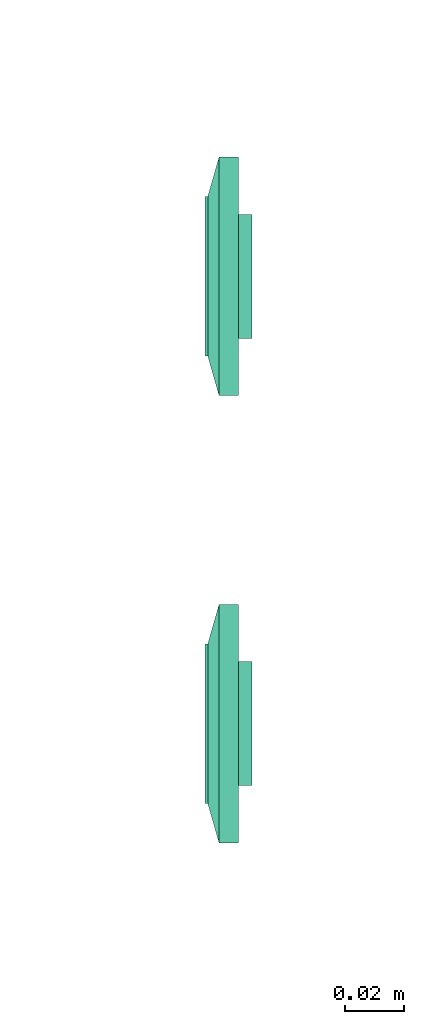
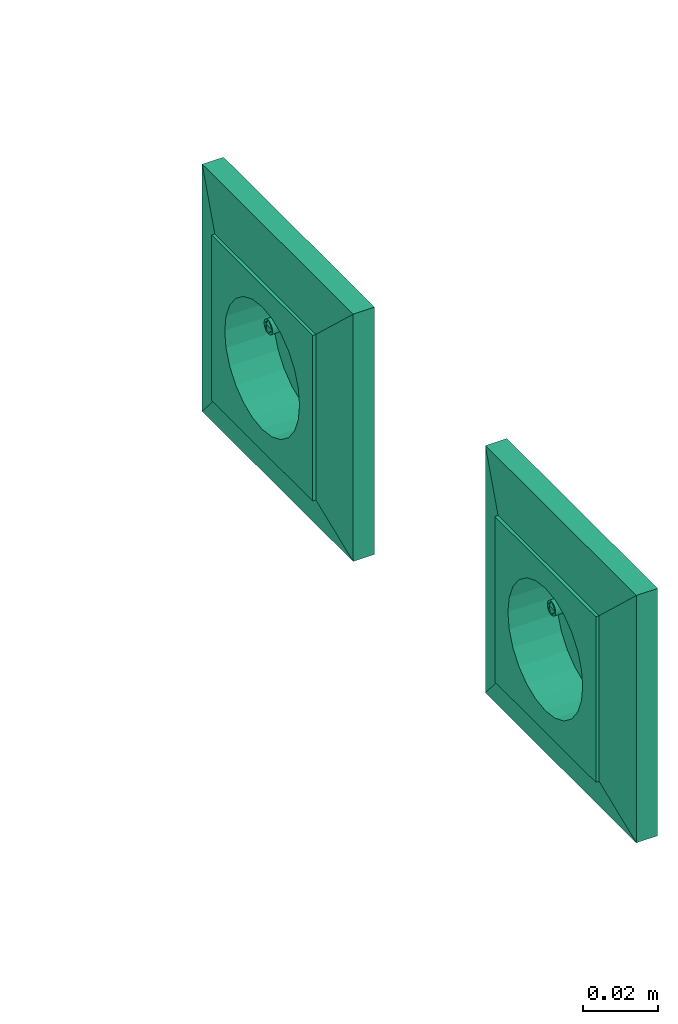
# One storey, part 95 of 146: 2 flow terminals.
"""IFC2X3 building model written with IfcOpenShell, lengths in metres."""

from ifc_helpers import new_model, entity, si_unit, converted_unit, derived_unit, direction, frame, origin, place, context, subcontext, project, spatial, face_set, surface_model, source, transform, mapped, type_object, type_shapes, element, save


model = new_model("IFC2X3")

# Units and contexts
model_context = context("Model", 3, precision=1e-05, world=origin(), true_north=direction((6.12303176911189e-17, 1.0)))
body_context = subcontext(model_context, "Body", "Model", "MODEL_VIEW")
ifc_project = project(units=[si_unit("LENGTHUNIT", "METRE"), si_unit("AREAUNIT", "SQUARE_METRE"), si_unit("VOLUMEUNIT", "CUBIC_METRE"), converted_unit("PLANEANGLEUNIT", "DEGREE", entity("IfcRatioMeasure", 0.0174532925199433), si_unit("PLANEANGLEUNIT", "RADIAN"), dimensions=[0, 0, 0, 0, 0, 0, 0]), si_unit("MASSUNIT", "GRAM", prefix="KILO"), derived_unit("MASSDENSITYUNIT", [(si_unit("MASSUNIT", "GRAM", prefix="KILO"), 1), (si_unit("LENGTHUNIT", "METRE"), -3)]), si_unit("TIMEUNIT", "SECOND"), si_unit("FREQUENCYUNIT", "HERTZ"), si_unit("THERMODYNAMICTEMPERATUREUNIT", "DEGREE_CELSIUS"), derived_unit("THERMALTRANSMITTANCEUNIT", [(si_unit("MASSUNIT", "GRAM", prefix="KILO"), 1), (si_unit("THERMODYNAMICTEMPERATUREUNIT", "KELVIN"), -1), (si_unit("TIMEUNIT", "SECOND"), -3)]), derived_unit("VOLUMETRICFLOWRATEUNIT", [(si_unit("LENGTHUNIT", "METRE"), 3), (si_unit("TIMEUNIT", "SECOND"), -1)]), si_unit("ELECTRICCURRENTUNIT", "AMPERE"), si_unit("ELECTRICVOLTAGEUNIT", "VOLT"), si_unit("POWERUNIT", "WATT"), si_unit("FORCEUNIT", "NEWTON"), si_unit("ILLUMINANCEUNIT", "LUX"), si_unit("LUMINOUSFLUXUNIT", "LUMEN"), si_unit("LUMINOUSINTENSITYUNIT", "CANDELA"), derived_unit("USERDEFINED", [(si_unit("MASSUNIT", "GRAM", prefix="KILO"), -1), (si_unit("LENGTHUNIT", "METRE"), -2), (si_unit("TIMEUNIT", "SECOND"), 3), (si_unit("LUMINOUSFLUXUNIT", "LUMEN"), 1)]), derived_unit("LINEARVELOCITYUNIT", [(si_unit("LENGTHUNIT", "METRE"), 1), (si_unit("TIMEUNIT", "SECOND"), -1)]), si_unit("PRESSUREUNIT", "PASCAL"), derived_unit("USERDEFINED", [(si_unit("LENGTHUNIT", "METRE"), -2), (si_unit("MASSUNIT", "GRAM", prefix="KILO"), 1), (si_unit("TIMEUNIT", "SECOND"), -2)])], contexts=[model_context])

# Site, building, storey
site_placement = place(None, origin())
site = spatial("IfcSite", under=ifc_project, at=site_placement, Name="Default", CompositionType="ELEMENT")
building_placement = place(site_placement, origin())
building = spatial("IfcBuilding", under=site, at=building_placement, CompositionType="ELEMENT")
storey_placement = place(building_placement, origin())
storey = spatial("IfcBuildingStorey", under=building, at=storey_placement, Name="S01", CompositionType="ELEMENT", Elevation=0.0)

# Flow terminals
light_fixture_type = type_object("IfcLightFixtureType", Name="IP20 ONDULEE", PredefinedType="NOTDEFINED")
shared_shape = source(origin(), body_context, "Body", "SurfaceModel", [
    surface_model("IfcFaceBasedSurfaceModel", [(-0.00225000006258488, 0.0127499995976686, 0.00949633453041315), (0.0, 0.0104999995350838, 0.00949633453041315), (0.0, 0.0115376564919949, 0.0101656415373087), (0.0, 0.0139623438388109, 0.0101656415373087), (0.0, 0.0144589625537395, 0.00984531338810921), (0.0, 0.0121178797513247, 0.0102778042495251), (0.0, 0.0133821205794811, 0.0102778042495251), (0.0, 0.0127499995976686, 0.010399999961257), (0.0, 0.0149999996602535, 0.00949633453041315), (0.00225000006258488, 0.0127499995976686, 0.00949633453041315), (0.0, 0.0110410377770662, 0.00984531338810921), (0.0, 0.0127499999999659, 0.00949633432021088), (0.00225000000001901, 0.0127499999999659, 0.00949633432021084), (0.00217333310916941, 0.0121676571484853, 0.00949633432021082), (0.00194855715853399, 0.0116249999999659, 0.00949633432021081), (0.00159099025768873, 0.0111590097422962, 0.00949633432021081), (0.001125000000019, 0.010801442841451, 0.00949633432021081), (0.00058234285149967, 0.0105766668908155, 0.00949633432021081), (0.0, 0.0104999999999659, 0.00949633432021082), (-0.000582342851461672, 0.0105766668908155, 0.00949633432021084), (-0.001124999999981, 0.010801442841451, 0.00949633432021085), (-0.00159099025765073, 0.0111590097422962, 0.00949633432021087), (-0.00194855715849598, 0.011624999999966, 0.00949633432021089), (-0.0021733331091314, 0.0121676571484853, 0.00949633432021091), (-0.00224999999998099, 0.012749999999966, 0.00949633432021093), (-0.00217333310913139, 0.0133323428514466, 0.00949633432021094), (-0.00194855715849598, 0.013874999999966, 0.00949633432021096), (-0.00159099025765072, 0.0143409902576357, 0.00949633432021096), (-0.00112499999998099, 0.0146985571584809, 0.00949633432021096), (-0.00058234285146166, 0.0149233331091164, 0.00949633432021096), (0.0, 0.0149999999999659, 0.00949633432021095), (0.000582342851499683, 0.0149233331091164, 0.00949633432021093), (0.00112500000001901, 0.0146985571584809, 0.00949633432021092), (0.00159099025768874, 0.0143409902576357, 0.00949633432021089), (0.001948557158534, 0.0138749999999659, 0.00949633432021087), (0.00217333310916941, 0.0133323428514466, 0.00949633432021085), (0.00225000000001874, 0.0127499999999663, -0.00360000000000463), (0.00217333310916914, 0.0121676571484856, -0.00360000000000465), (0.00194855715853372, 0.0116249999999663, -0.00360000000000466), (0.00159099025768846, 0.0111590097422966, -0.00360000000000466), (0.00112500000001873, 0.0108014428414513, -0.00360000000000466), (0.000582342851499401, 0.0105766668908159, -0.00360000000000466), (0.0, 0.0104999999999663, -0.00360000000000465), (-0.000582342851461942, 0.0105766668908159, -0.00360000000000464), (-0.00112499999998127, 0.0108014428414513, -0.00360000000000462), (-0.001590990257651, 0.0111590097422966, -0.0036000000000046), (-0.00194855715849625, 0.0116249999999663, -0.00360000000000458), (-0.00217333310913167, 0.0121676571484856, -0.00360000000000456), (-0.00224999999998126, 0.0127499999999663, -0.00360000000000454), (-0.00217333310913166, 0.013332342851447, -0.00360000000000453), (-0.00194855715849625, 0.0138749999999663, -0.00360000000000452), (-0.00159099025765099, 0.014340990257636, -0.00360000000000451), (-0.00112499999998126, 0.0146985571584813, -0.00360000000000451), (-0.000582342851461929, 0.0149233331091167, -0.00360000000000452), (0.0, 0.0149999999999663, -0.00360000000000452), (0.000582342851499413, 0.0149233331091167, -0.00360000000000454), (0.00112500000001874, 0.0146985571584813, -0.00360000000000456), (0.00159099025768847, 0.014340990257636, -0.00360000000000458), (0.00194855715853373, 0.0138749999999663, -0.0036000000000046), (0.00217333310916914, 0.013332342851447, -0.00360000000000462), (0.0270000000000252, 0.026999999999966, 0.0113999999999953), (-0.0269999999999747, 0.026999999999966, 0.0113999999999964), (-0.0269999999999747, -0.0270000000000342, 0.0113999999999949), (0.0270000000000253, -0.0270000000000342, 0.0113999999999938), (-0.0199999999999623, 0.0, 0.0113999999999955), (-0.0193185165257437, -0.00517638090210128, 0.0113999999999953), (-0.0173205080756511, -0.0100000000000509, 0.0113999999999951), (-0.0141421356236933, -0.0141421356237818, 0.011399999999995), (-0.00999999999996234, -0.0173205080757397, 0.0113999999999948), (-0.00517638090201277, -0.0193185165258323, 0.0113999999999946), (0.0, -0.0200000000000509, 0.0113999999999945), (0.00517638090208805, -0.0193185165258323, 0.0113999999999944), (0.0100000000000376, -0.0173205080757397, 0.0113999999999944), (0.0141421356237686, -0.0141421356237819, 0.0113999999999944), (0.0173205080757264, -0.010000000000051, 0.0113999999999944), (0.0193185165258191, -0.00517638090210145, 0.0113999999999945), (0.0200000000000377, 0.0, 0.0113999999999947), (0.0193185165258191, 0.00517638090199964, 0.0113999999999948), (0.0173205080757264, 0.0099999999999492, 0.011399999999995), (0.0141421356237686, 0.0141421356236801, 0.0113999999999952), (0.0100000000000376, 0.0173205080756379, 0.0113999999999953), (0.00517638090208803, 0.0193185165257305, 0.0113999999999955), (0.0, 0.0199999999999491, 0.0113999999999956), (-0.00517638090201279, 0.0193185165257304, 0.0113999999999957), (-0.00999999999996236, 0.0173205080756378, 0.0113999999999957), (-0.0141421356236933, 0.01414213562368, 0.0113999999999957), (-0.0173205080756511, 0.00999999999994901, 0.0113999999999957), (-0.0193185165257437, 0.00517638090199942, 0.0113999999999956), (0.0270000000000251, 0.0269999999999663, 0.00199999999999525), (0.0270000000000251, -0.0270000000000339, 0.00199999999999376), (-0.0269999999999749, -0.0270000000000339, 0.00199999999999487), (-0.0269999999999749, 0.0269999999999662, 0.00199999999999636), (0.0210000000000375, 0.0, 0.00199999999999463), (0.0202844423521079, -0.00543519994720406, 0.00199999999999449), (0.0181865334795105, -0.0105000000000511, 0.0019999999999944), (0.0148492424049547, -0.0148492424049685, 0.00199999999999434), (0.0105000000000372, -0.0181865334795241, 0.00199999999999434), (0.0054351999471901, -0.0202844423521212, 0.00199999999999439), (0.0, -0.0210000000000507, 0.00199999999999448), (-0.00543519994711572, -0.020284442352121, 0.00199999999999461), (-0.0104999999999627, -0.0181865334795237, 0.00199999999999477), (-0.0148492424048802, -0.014849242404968, 0.00199999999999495), (-0.0181865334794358, -0.0105000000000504, 0.00199999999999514), (-0.020284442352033, -0.00543519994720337, 0.00199999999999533), (-0.0209999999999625, 0.0, 0.00199999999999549), (-0.0202844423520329, 0.0054351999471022, 0.00199999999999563), (-0.0181865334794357, 0.0104999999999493, 0.00199999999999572), (-0.01484924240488, 0.0148492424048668, 0.00199999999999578), (-0.0104999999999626, 0.0181865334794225, 0.00199999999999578), (-0.00543519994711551, 0.0202844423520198, 0.00199999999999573), (0.0, 0.0209999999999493, 0.00199999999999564), (0.00543519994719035, 0.0202844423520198, 0.00199999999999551), (0.0105000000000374, 0.0181865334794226, 0.00199999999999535), (0.0148492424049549, 0.0148492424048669, 0.00199999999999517), (0.0181865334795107, 0.0104999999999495, 0.00199999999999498), (0.0202844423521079, 0.00543519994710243, 0.00199999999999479), (0.0200000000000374, 0.0, -0.00360000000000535), (0.0193185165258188, -0.00517638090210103, -0.00360000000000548), (0.0173205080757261, -0.0100000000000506, -0.00360000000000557), (0.0141421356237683, -0.0141421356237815, -0.00360000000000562), (0.0100000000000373, -0.0173205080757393, -0.00360000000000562), (0.00517638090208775, -0.0193185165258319, -0.00360000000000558), (0.0, -0.0200000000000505, -0.00360000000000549), (-0.00517638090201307, -0.0193185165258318, -0.00360000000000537), (-0.00999999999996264, -0.0173205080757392, -0.00360000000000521), (-0.0141421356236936, -0.0141421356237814, -0.00360000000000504), (-0.0173205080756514, -0.0100000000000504, -0.00360000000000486), (-0.019318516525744, -0.00517638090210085, -0.00360000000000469), (-0.0199999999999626, 0.0, -0.00360000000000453), (-0.0193185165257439, 0.00517638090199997, -0.0036000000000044), (-0.0173205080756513, 0.00999999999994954, -0.00360000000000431), (-0.0141421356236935, 0.0141421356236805, -0.00360000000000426), (-0.00999999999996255, 0.0173205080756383, -0.00360000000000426), (-0.00517638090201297, 0.0193185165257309, -0.0036000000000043), (0.0, 0.0199999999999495, -0.00360000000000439), (0.00517638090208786, 0.0193185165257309, -0.00360000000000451), (0.0100000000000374, 0.0173205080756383, -0.00360000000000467), (0.0141421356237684, 0.0141421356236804, -0.00360000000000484), (0.0173205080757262, 0.0099999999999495, -0.00360000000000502), (0.0193185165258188, 0.00517638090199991, -0.00360000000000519), (-0.0123499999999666, 0.0, -0.00360000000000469), (-0.0122562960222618, -0.000711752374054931, -0.00360000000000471), (-0.0119815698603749, -0.00137500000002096, -0.00360000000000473), (-0.0115445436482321, -0.00194454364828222, -0.00360000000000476), (-0.0109749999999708, -0.00238156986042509, -0.00360000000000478), (-0.0103117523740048, -0.00265629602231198, -0.0036000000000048), (-0.00959999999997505, -0.00275000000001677, -0.00360000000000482), (-0.0088882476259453, -0.00265629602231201, -0.00360000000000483), (-0.00822499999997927, -0.00238156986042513, -0.00360000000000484), (-0.00765545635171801, -0.00194454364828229, -0.00360000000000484), (-0.00721843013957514, -0.00137500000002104, -0.00360000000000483), (-0.00694370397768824, -0.000711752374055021, -0.00360000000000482), (-0.00684999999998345, 0.0, -0.0036000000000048), (-0.00694370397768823, 0.000711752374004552, -0.00360000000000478), (-0.00721843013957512, 0.00137499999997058, -0.00360000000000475), (-0.00765545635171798, 0.00194454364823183, -0.00360000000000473), (-0.00822499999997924, 0.00238156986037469, -0.0036000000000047), (-0.00888824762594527, 0.00265629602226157, -0.00360000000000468), (-0.00959999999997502, 0.00274999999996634, -0.00360000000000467), (-0.0103117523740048, 0.00265629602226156, -0.00360000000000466), (-0.0109749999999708, 0.00238156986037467, -0.00360000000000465), (-0.011544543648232, 0.00194454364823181, -0.00360000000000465), (-0.0119815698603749, 0.00137499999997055, -0.00360000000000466), (-0.0122562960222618, 0.000711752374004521, -0.00360000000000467), (0.00685000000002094, 0.0, -0.00360000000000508), (0.0069437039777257, -0.00071175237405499, -0.0036000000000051), (0.00721843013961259, -0.00137500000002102, -0.00360000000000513), (0.00765545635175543, -0.00194454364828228, -0.00360000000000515), (0.00822500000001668, -0.00238156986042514, -0.00360000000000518), (0.00888824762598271, -0.00265629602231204, -0.0036000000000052), (0.00960000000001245, -0.00275000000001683, -0.00360000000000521), (0.0103117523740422, -0.00265629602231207, -0.00360000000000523), (0.0109750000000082, -0.00238156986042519, -0.00360000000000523), (0.0115445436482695, -0.00194454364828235, -0.00360000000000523), (0.0119815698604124, -0.0013750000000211, -0.00360000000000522), (0.0122562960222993, -0.00071175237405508, -0.00360000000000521), (0.012350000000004, 0.0, -0.00360000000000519), (0.0122562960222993, 0.000711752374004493, -0.00360000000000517), (0.0119815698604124, 0.00137499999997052, -0.00360000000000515), (0.0115445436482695, 0.00194454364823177, -0.00360000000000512), (0.0109750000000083, 0.00238156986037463, -0.0036000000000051), (0.0103117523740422, 0.00265629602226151, -0.00360000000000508), (0.00960000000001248, 0.00274999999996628, -0.00360000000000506), (0.00888824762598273, 0.0026562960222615, -0.00360000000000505), (0.0082250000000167, 0.00238156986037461, -0.00360000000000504), (0.00765545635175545, 0.00194454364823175, -0.00360000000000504), (0.0072184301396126, 0.00137499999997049, -0.00360000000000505), (0.00694370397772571, 0.000711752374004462, -0.00360000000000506), (0.0210000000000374, 0.0, -0.00460000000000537), (0.0202844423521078, -0.00543519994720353, -0.00460000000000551), (0.0181865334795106, -0.0105000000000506, -0.0046000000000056), (0.0148492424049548, -0.0148492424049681, -0.00460000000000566), (0.0105000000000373, -0.0181865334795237, -0.00460000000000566), (0.00543519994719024, -0.0202844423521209, -0.00460000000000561), (0.0, -0.0210000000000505, -0.00460000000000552), (-0.00543519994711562, -0.0202844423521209, -0.00460000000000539), (-0.0104999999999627, -0.0181865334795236, -0.00460000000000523), (-0.0148492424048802, -0.0148492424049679, -0.00460000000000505), (-0.0181865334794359, -0.0105000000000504, -0.00460000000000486), (-0.0202844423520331, -0.00543519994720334, -0.00460000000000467), (-0.0209999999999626, 0.0, -0.00460000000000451), (-0.020284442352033, 0.00543519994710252, -0.00460000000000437), (-0.0181865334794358, 0.0104999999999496, -0.00460000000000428), (-0.0148492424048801, 0.0148492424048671, -0.00460000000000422), (-0.0104999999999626, 0.0181865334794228, -0.00460000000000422), (-0.00543519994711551, 0.02028444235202, -0.00460000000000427), (0.0, 0.0209999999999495, -0.00460000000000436), (0.00543519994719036, 0.02028444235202, -0.00460000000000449), (0.0105000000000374, 0.0181865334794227, -0.00460000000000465), (0.0148492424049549, 0.014849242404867, -0.00460000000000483), (0.0181865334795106, 0.0104999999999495, -0.00460000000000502), (0.0202844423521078, 0.00543519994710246, -0.00460000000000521), (-0.00684999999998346, 0.0, -0.0046000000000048), (-0.00694370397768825, 0.000711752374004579, -0.00460000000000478), (-0.00721843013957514, 0.00137499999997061, -0.00460000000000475), (-0.007655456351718, 0.00194454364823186, -0.00460000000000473), (-0.00822499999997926, 0.00238156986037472, -0.0046000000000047), (-0.00888824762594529, 0.0026562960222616, -0.00460000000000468), (-0.00959999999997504, 0.00274999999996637, -0.00460000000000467), (-0.0103117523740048, 0.00265629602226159, -0.00460000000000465), (-0.0109749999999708, 0.0023815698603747, -0.00460000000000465), (-0.0115445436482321, 0.00194454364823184, -0.00460000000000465), (-0.0119815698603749, 0.00137499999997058, -0.00460000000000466), (-0.0122562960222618, 0.000711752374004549, -0.00460000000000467), (-0.0123499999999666, 0.0, -0.00460000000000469), (-0.0122562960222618, -0.000711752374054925, -0.00460000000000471), (-0.0119815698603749, -0.00137500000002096, -0.00460000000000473), (-0.0115445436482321, -0.00194454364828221, -0.00460000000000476), (-0.0109749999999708, -0.00238156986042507, -0.00460000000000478), (-0.0103117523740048, -0.00265629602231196, -0.0046000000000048), (-0.00959999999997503, -0.00275000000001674, -0.00460000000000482), (-0.00888824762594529, -0.00265629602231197, -0.00460000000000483), (-0.00822499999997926, -0.00238156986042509, -0.00460000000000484), (-0.007655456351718, -0.00194454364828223, -0.00460000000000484), (-0.00721843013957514, -0.00137500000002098, -0.00460000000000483), (-0.00694370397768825, -0.000711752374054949, -0.00460000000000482), (0.012350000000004, 0.0, -0.00460000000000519), (0.0122562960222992, 0.000711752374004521, -0.00460000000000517), (0.0119815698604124, 0.00137499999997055, -0.00460000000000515), (0.0115445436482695, 0.0019445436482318, -0.00460000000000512), (0.0109750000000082, 0.00238156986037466, -0.0046000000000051), (0.0103117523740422, 0.00265629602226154, -0.00460000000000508), (0.00960000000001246, 0.00274999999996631, -0.00460000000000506), (0.00888824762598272, 0.00265629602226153, -0.00460000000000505), (0.00822500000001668, 0.00238156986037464, -0.00460000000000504), (0.00765545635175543, 0.00194454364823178, -0.00460000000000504), (0.00721843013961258, 0.00137499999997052, -0.00460000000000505), (0.00694370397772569, 0.00071175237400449, -0.00460000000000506), (0.00685000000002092, 0.0, -0.00460000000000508), (0.00694370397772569, -0.000711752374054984, -0.0046000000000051), (0.00721843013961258, -0.00137500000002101, -0.00460000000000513), (0.00765545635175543, -0.00194454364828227, -0.00460000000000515), (0.00822500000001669, -0.00238156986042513, -0.00460000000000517), (0.00888824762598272, -0.00265629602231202, -0.0046000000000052), (0.00960000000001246, -0.0027500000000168, -0.00460000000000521), (0.0103117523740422, -0.00265629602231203, -0.00460000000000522), (0.0109750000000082, -0.00238156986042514, -0.00460000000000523), (0.0115445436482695, -0.00194454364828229, -0.00460000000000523), (0.0119815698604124, -0.00137500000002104, -0.00460000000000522), (0.0122562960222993, -0.000711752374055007, -0.00460000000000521), (0.040350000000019, 0.0403499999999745, 0.00659999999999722), (0.040350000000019, -0.0403500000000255, 0.00659999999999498), (-0.0403499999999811, -0.0403500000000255, 0.00659999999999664), (-0.0403499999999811, 0.0403499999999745, 0.00659999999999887), (0.027000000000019, 0.0269999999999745, 0.00659999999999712), (-0.0269999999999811, 0.0269999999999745, 0.00659999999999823), (-0.026999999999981, -0.0270000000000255, 0.00659999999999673), (0.027000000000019, -0.0270000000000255, 0.00659999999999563), (0.027000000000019, 0.0269999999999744, 0.0103999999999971), (-0.026999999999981, 0.0269999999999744, 0.0103999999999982), (-0.026999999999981, -0.0270000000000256, 0.0103999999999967), (0.027000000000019, -0.0270000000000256, 0.0103999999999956), (0.040350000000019, 0.0403499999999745, 0.00659999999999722), (0.040350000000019, -0.0403500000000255, 0.00659999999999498), (-0.0403499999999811, -0.0403500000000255, 0.00659999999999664), (-0.0403499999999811, 0.0403499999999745, 0.00659999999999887), (-0.0269999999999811, 0.0269999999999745, 0.00659999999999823), (-0.0269999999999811, -0.0270000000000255, 0.00659999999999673), (0.0270000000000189, -0.0270000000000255, 0.00659999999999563), (0.0270000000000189, 0.0269999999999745, 0.00659999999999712), (0.0403500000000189, 0.0403499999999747, 0.0), (0.0403500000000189, -0.0403500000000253, 0.0), (-0.0403499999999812, -0.0403500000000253, 0.0), (-0.0403499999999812, 0.0403499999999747, 0.0), (0.0270000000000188, 0.0269999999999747, 0.0), (-0.0269999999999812, 0.0269999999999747, 0.0), (-0.0269999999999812, -0.0270000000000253, 0.0), (0.0270000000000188, -0.0270000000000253, 0.0)], [face_set([[[0, 1, 2]], [[3, 4, 2, 5]], [[6, 3, 5, 7]], [[2, 4, 0]], [[4, 8, 0]], [[3, 9, 8]], [[1, 9, 10]], [[2, 3, 6, 7]], [[3, 10, 9]], [[2, 10, 3]], [[11, 1, 0, 8]], [[11, 8, 9, 1]]]), face_set([[[12, 13, 14, 15, 16, 17, 18, 19, 20, 21, 22, 23, 24, 25, 26, 27, 28, 29, 30, 31, 32, 33, 34, 35]], [[36, 37, 38, 39, 40, 41, 42, 43, 44, 45, 46, 47, 48, 49, 50, 51, 52, 53, 54, 55, 56, 57, 58, 59]], [[48, 47, 23, 24]], [[47, 46, 22, 23]], [[45, 44, 20, 21]], [[46, 45, 21, 22]], [[44, 43, 19, 20]], [[18, 19, 43, 42]], [[42, 41, 17, 18]], [[41, 40, 16, 17]], [[39, 38, 14, 15]], [[40, 39, 15, 16]], [[38, 37, 13, 14]], [[12, 13, 37, 36]], [[36, 59, 35, 12]], [[59, 58, 34, 35]], [[57, 56, 32, 33]], [[58, 57, 33, 34]], [[56, 55, 31, 32]], [[30, 31, 55, 54]], [[54, 53, 29, 30]], [[53, 52, 28, 29]], [[51, 50, 26, 27]], [[52, 51, 27, 28]], [[50, 49, 25, 26]], [[24, 25, 49, 48]]]), face_set([[[60, 61, 62, 63], [64, 65, 66, 67, 68, 69, 70, 71, 72, 73, 74, 75, 76, 77, 78, 79, 80, 81, 82, 83, 84, 85, 86, 87]], [[88, 89, 90, 91], [92, 93, 94, 95, 96, 97, 98, 99, 100, 101, 102, 103, 104, 105, 106, 107, 108, 109, 110, 111, 112, 113, 114, 115]], [[61, 60, 88, 91]], [[62, 61, 91, 90]], [[63, 62, 90, 89]], [[60, 63, 89, 88]], [[116, 117, 118, 119, 120, 121, 122, 123, 124, 125, 126, 127, 128, 129, 130, 131, 132, 133, 134, 135, 136, 137, 138, 139], [140, 141, 142, 143, 144, 145, 146, 147, 148, 149, 150, 151, 152, 153, 154, 155, 156, 157, 158, 159, 160, 161, 162, 163], [164, 165, 166, 167, 168, 169, 170, 171, 172, 173, 174, 175, 176, 177, 178, 179, 180, 181, 182, 183, 184, 185, 186, 187]], [[64, 128, 127, 65]], [[65, 127, 126, 66]], [[67, 125, 124, 68]], [[66, 126, 125, 67]], [[68, 124, 123, 69]], [[122, 70, 69, 123]], [[70, 122, 121, 71]], [[71, 121, 120, 72]], [[73, 119, 118, 74]], [[72, 120, 119, 73]], [[74, 118, 117, 75]], [[116, 76, 75, 117]], [[76, 116, 139, 77]], [[77, 139, 138, 78]], [[79, 137, 136, 80]], [[78, 138, 137, 79]], [[80, 136, 135, 81]], [[134, 82, 81, 135]], [[82, 134, 133, 83]], [[83, 133, 132, 84]], [[84, 132, 131, 85]], [[85, 131, 130, 86]], [[130, 129, 87, 86]], [[64, 87, 129, 128]], [[188, 189, 190, 191, 192, 193, 194, 195, 196, 197, 198, 199, 200, 201, 202, 203, 204, 205, 206, 207, 208, 209, 210, 211], [212, 213, 214, 215, 216, 217, 218, 219, 220, 221, 222, 223, 224, 225, 226, 227, 228, 229, 230, 231, 232, 233, 234, 235], [236, 237, 238, 239, 240, 241, 242, 243, 244, 245, 246, 247, 248, 249, 250, 251, 252, 253, 254, 255, 256, 257, 258, 259]], [[200, 199, 103, 104]], [[199, 198, 102, 103]], [[197, 196, 100, 101]], [[198, 197, 101, 102]], [[196, 195, 99, 100]], [[98, 99, 195, 194]], [[194, 193, 97, 98]], [[193, 192, 96, 97]], [[191, 190, 94, 95]], [[192, 191, 95, 96]], [[190, 189, 93, 94]], [[92, 93, 189, 188]], [[188, 211, 115, 92]], [[211, 210, 114, 115]], [[209, 208, 112, 113]], [[210, 209, 113, 114]], [[208, 207, 111, 112]], [[110, 111, 207, 206]], [[206, 205, 109, 110]], [[205, 204, 108, 109]], [[203, 202, 106, 107]], [[204, 203, 107, 108]], [[202, 201, 105, 106]], [[104, 105, 201, 200]], [[141, 225, 226, 142]], [[140, 224, 225, 141]], [[144, 228, 229, 145]], [[143, 227, 228, 144]], [[142, 226, 227, 143]], [[230, 146, 145, 229]], [[149, 233, 232, 148]], [[148, 232, 231, 147]], [[152, 212, 235, 151]], [[151, 235, 234, 150]], [[150, 234, 233, 149]], [[146, 230, 231, 147]], [[154, 214, 213, 153]], [[153, 213, 212, 152]], [[157, 217, 216, 156]], [[156, 216, 215, 155]], [[155, 215, 214, 154]], [[218, 158, 157, 217]], [[160, 220, 221, 161]], [[159, 219, 220, 160]], [[163, 223, 224, 140]], [[162, 222, 223, 163]], [[161, 221, 222, 162]], [[158, 218, 219, 159]], [[166, 250, 249, 165]], [[165, 249, 248, 164]], [[169, 253, 252, 168]], [[168, 252, 251, 167]], [[167, 251, 250, 166]], [[254, 170, 169, 253]], [[172, 256, 257, 173]], [[171, 255, 256, 172]], [[175, 259, 236, 176]], [[174, 258, 259, 175]], [[173, 257, 258, 174]], [[170, 254, 255, 171]], [[177, 237, 238, 178]], [[176, 236, 237, 177]], [[180, 240, 241, 181]], [[179, 239, 240, 180]], [[178, 238, 239, 179]], [[242, 182, 181, 241]], [[185, 245, 244, 184]], [[184, 244, 243, 183]], [[164, 248, 247, 187]], [[187, 247, 246, 186]], [[186, 246, 245, 185]], [[182, 242, 243, 183]]]), face_set([[[260, 261, 262, 263], [264, 265, 266, 267]], [[260, 268, 269, 263]], [[263, 269, 270, 262]], [[262, 270, 271, 261]], [[261, 271, 268, 260]], [[264, 265, 269, 268]], [[265, 266, 270, 269]], [[266, 267, 271, 270]], [[268, 271, 267, 264]]]), face_set([[[272, 273, 274, 275], [276, 277, 278, 279]], [[280, 281, 282, 283], [284, 285, 286, 287]], [[275, 272, 280, 283]], [[274, 275, 283, 282]], [[273, 274, 282, 281]], [[272, 273, 281, 280]], [[284, 285, 276, 279]], [[285, 286, 277, 276]], [[286, 287, 278, 277]], [[279, 278, 287, 284]]])]),
])
type_shapes(light_fixture_type, [shared_shape])
for number, where, z_axis, x_axis in (
    (1, (69.5144377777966, -192.770102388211, 0.320000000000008), (-1.0, 0.0, 0.0), (0.0, -1.0, 0.0)),
    (2, (69.5144377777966, -192.921467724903, 0.320000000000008), (-1.0, 0.0, 0.0), (0.0, -1.0, 0.0)),
):
    element("IfcFlowTerminal", number, at=place(storey_placement, frame(where, z_axis=z_axis, x_axis=x_axis)), inside=storey, type_object=light_fixture_type, Name="INT Prise de courant:IP20 ONDULEE", ObjectType="INT Prise de courant:IP20 ONDULEE", context=body_context, shape_type="MappedRepresentation", body=[
        mapped(shared_shape, transform((0.0, 0.0, 0.0), scale=1.0)),
    ])

save(model, "model.ifc")
